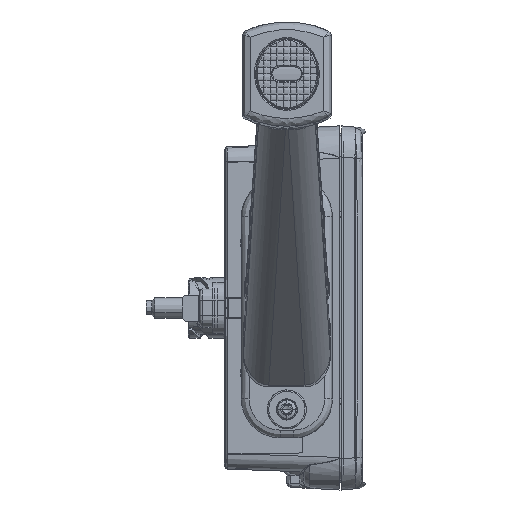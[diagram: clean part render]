
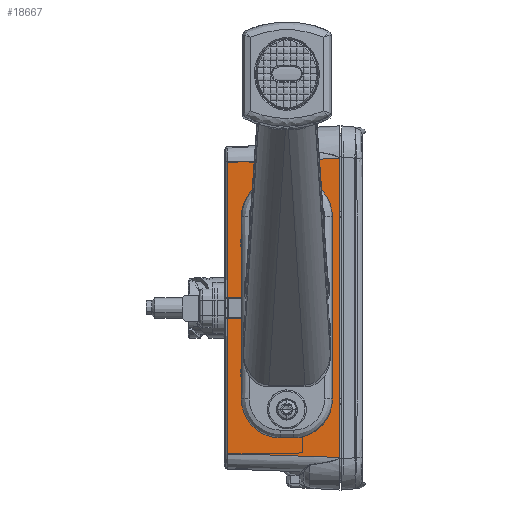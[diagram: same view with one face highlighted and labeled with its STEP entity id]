
A CAD part, front view. The second image highlights one B-rep face of the part: STEP entity #18667.
In plain terms, the highlighted planar face has unit normal (0, -1, 0).
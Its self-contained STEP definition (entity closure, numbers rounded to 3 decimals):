
#18553=AXIS2_PLACEMENT_3D('Plane Axis2P3D',#18550,#18551,#18552) ;
#18566=AXIS2_PLACEMENT_3D('Circle Axis2P3D',#18564,#18565,$) ;
#18580=AXIS2_PLACEMENT_3D('Circle Axis2P3D',#18578,#18579,$) ;
#18594=AXIS2_PLACEMENT_3D('Circle Axis2P3D',#18592,#18593,$) ;
#18608=AXIS2_PLACEMENT_3D('Circle Axis2P3D',#18606,#18607,$) ;
#12412=CARTESIAN_POINT('Vertex',(-42.,-205.,55.977)) ;
#12415=CARTESIAN_POINT('Line Origine',(-20.65,-205.,56.722)) ;
#12419=CARTESIAN_POINT('Vertex',(1.179,-205.,57.485)) ;
#13785=CARTESIAN_POINT('Vertex',(1.179,-205.,-57.485)) ;
#13788=CARTESIAN_POINT('Line Origine',(-20.65,-205.,-56.722)) ;
#13792=CARTESIAN_POINT('Vertex',(-42.,-205.,-55.977)) ;
#18550=CARTESIAN_POINT('Axis2P3D Location',(0.,-205.,0.)) ;
#18555=CARTESIAN_POINT('Line Origine',(-36.5,-205.,19.487)) ;
#18559=CARTESIAN_POINT('Vertex',(-36.5,-205.,3.974)) ;
#18561=CARTESIAN_POINT('Vertex',(-36.5,-205.,35.)) ;
#18564=CARTESIAN_POINT('Axis2P3D Location',(-21.5,-205.,35.)) ;
#18568=CARTESIAN_POINT('Vertex',(-21.5,-205.,50.)) ;
#18571=CARTESIAN_POINT('Line Origine',(-19.,-205.,50.)) ;
#18575=CARTESIAN_POINT('Vertex',(-16.5,-205.,50.)) ;
#18578=CARTESIAN_POINT('Axis2P3D Location',(-16.5,-205.,35.)) ;
#18582=CARTESIAN_POINT('Vertex',(-1.5,-205.,35.)) ;
#18585=CARTESIAN_POINT('Line Origine',(-1.5,-205.,0.)) ;
#18589=CARTESIAN_POINT('Vertex',(-1.5,-205.,-35.)) ;
#18592=CARTESIAN_POINT('Axis2P3D Location',(-16.5,-205.,-35.)) ;
#18596=CARTESIAN_POINT('Vertex',(-16.5,-205.,-50.)) ;
#18599=CARTESIAN_POINT('Line Origine',(-19.,-205.,-50.)) ;
#18603=CARTESIAN_POINT('Vertex',(-21.5,-205.,-50.)) ;
#18606=CARTESIAN_POINT('Axis2P3D Location',(-21.5,-205.,-35.)) ;
#18610=CARTESIAN_POINT('Vertex',(-36.5,-205.,-35.)) ;
#18613=CARTESIAN_POINT('Line Origine',(-36.5,-205.,-19.487)) ;
#18617=CARTESIAN_POINT('Vertex',(-36.5,-205.,-3.974)) ;
#18620=CARTESIAN_POINT('Line Origine',(-39.25,-205.,-4.07)) ;
#18624=CARTESIAN_POINT('Vertex',(-42.,-205.,-4.166)) ;
#18627=CARTESIAN_POINT('Line Origine',(-42.,-205.,-30.071)) ;
#18632=CARTESIAN_POINT('Line Origine',(1.179,-205.,0.)) ;
#18637=CARTESIAN_POINT('Line Origine',(-42.,-205.,30.071)) ;
#18641=CARTESIAN_POINT('Vertex',(-42.,-205.,4.166)) ;
#18644=CARTESIAN_POINT('Line Origine',(-39.25,-205.,4.07)) ;
#12416=DIRECTION('Vector Direction',(-0.999,0.,-0.035)) ;
#13789=DIRECTION('Vector Direction',(-0.999,0.,0.035)) ;
#18551=DIRECTION('Axis2P3D Direction',(0.,1.,0.)) ;
#18552=DIRECTION('Axis2P3D XDirection',(0.,0.,1.)) ;
#18556=DIRECTION('Vector Direction',(0.,0.,1.)) ;
#18565=DIRECTION('Axis2P3D Direction',(0.,1.,0.)) ;
#18572=DIRECTION('Vector Direction',(-1.,0.,0.)) ;
#18579=DIRECTION('Axis2P3D Direction',(0.,1.,0.)) ;
#18586=DIRECTION('Vector Direction',(0.,0.,-1.)) ;
#18593=DIRECTION('Axis2P3D Direction',(0.,1.,0.)) ;
#18600=DIRECTION('Vector Direction',(1.,0.,0.)) ;
#18607=DIRECTION('Axis2P3D Direction',(0.,1.,0.)) ;
#18614=DIRECTION('Vector Direction',(0.,0.,1.)) ;
#18621=DIRECTION('Vector Direction',(-0.999,0.,-0.035)) ;
#18628=DIRECTION('Vector Direction',(0.,0.,-1.)) ;
#18633=DIRECTION('Vector Direction',(0.,0.,1.)) ;
#18638=DIRECTION('Vector Direction',(0.,0.,-1.)) ;
#18645=DIRECTION('Vector Direction',(-0.999,0.,0.035)) ;
#12417=VECTOR('Line Direction',#12416,1.) ;
#13790=VECTOR('Line Direction',#13789,1.) ;
#18557=VECTOR('Line Direction',#18556,1.) ;
#18573=VECTOR('Line Direction',#18572,1.) ;
#18587=VECTOR('Line Direction',#18586,1.) ;
#18601=VECTOR('Line Direction',#18600,1.) ;
#18615=VECTOR('Line Direction',#18614,1.) ;
#18622=VECTOR('Line Direction',#18621,1.) ;
#18629=VECTOR('Line Direction',#18628,1.) ;
#18634=VECTOR('Line Direction',#18633,1.) ;
#18639=VECTOR('Line Direction',#18638,1.) ;
#18646=VECTOR('Line Direction',#18645,1.) ;
#18650=ORIENTED_EDGE('',*,*,#18563,.T.) ;
#18651=ORIENTED_EDGE('',*,*,#18570,.F.) ;
#18652=ORIENTED_EDGE('',*,*,#18577,.T.) ;
#18653=ORIENTED_EDGE('',*,*,#18584,.F.) ;
#18654=ORIENTED_EDGE('',*,*,#18591,.T.) ;
#18655=ORIENTED_EDGE('',*,*,#18598,.F.) ;
#18656=ORIENTED_EDGE('',*,*,#18605,.T.) ;
#18657=ORIENTED_EDGE('',*,*,#18612,.F.) ;
#18658=ORIENTED_EDGE('',*,*,#18619,.T.) ;
#18659=ORIENTED_EDGE('',*,*,#18626,.F.) ;
#18660=ORIENTED_EDGE('',*,*,#18631,.T.) ;
#18661=ORIENTED_EDGE('',*,*,#13794,.T.) ;
#18662=ORIENTED_EDGE('',*,*,#18636,.F.) ;
#18663=ORIENTED_EDGE('',*,*,#12421,.F.) ;
#18664=ORIENTED_EDGE('',*,*,#18643,.T.) ;
#18665=ORIENTED_EDGE('',*,*,#18648,.F.) ;
#18667=ADVANCED_FACE('PartBody',(#18666),#18554,.F.) ;
#18567=CIRCLE('generated circle',#18566,15.) ;
#18581=CIRCLE('generated circle',#18580,15.) ;
#18595=CIRCLE('generated circle',#18594,15.) ;
#18609=CIRCLE('generated circle',#18608,15.) ;
#12421=EDGE_CURVE('',#12413,#12420,#12418,.F.) ;
#13794=EDGE_CURVE('',#13793,#13786,#13791,.F.) ;
#18563=EDGE_CURVE('',#18560,#18562,#18558,.T.) ;
#18570=EDGE_CURVE('',#18569,#18562,#18567,.F.) ;
#18577=EDGE_CURVE('',#18569,#18576,#18574,.F.) ;
#18584=EDGE_CURVE('',#18583,#18576,#18581,.F.) ;
#18591=EDGE_CURVE('',#18583,#18590,#18588,.T.) ;
#18598=EDGE_CURVE('',#18597,#18590,#18595,.F.) ;
#18605=EDGE_CURVE('',#18597,#18604,#18602,.F.) ;
#18612=EDGE_CURVE('',#18611,#18604,#18609,.F.) ;
#18619=EDGE_CURVE('',#18611,#18618,#18616,.T.) ;
#18626=EDGE_CURVE('',#18625,#18618,#18623,.F.) ;
#18631=EDGE_CURVE('',#18625,#13793,#18630,.T.) ;
#18636=EDGE_CURVE('',#12420,#13786,#18635,.F.) ;
#18643=EDGE_CURVE('',#12413,#18642,#18640,.T.) ;
#18648=EDGE_CURVE('',#18560,#18642,#18647,.T.) ;
#18649=EDGE_LOOP('',(#18650,#18651,#18652,#18653,#18654,#18655,#18656,#18657,#18658,#18659,#18660,#18661,#18662,#18663,#18664,#18665)) ;
#18666=FACE_OUTER_BOUND('',#18649,.T.) ;
#12418=LINE('Line',#12415,#12417) ;
#13791=LINE('Line',#13788,#13790) ;
#18558=LINE('Line',#18555,#18557) ;
#18574=LINE('Line',#18571,#18573) ;
#18588=LINE('Line',#18585,#18587) ;
#18602=LINE('Line',#18599,#18601) ;
#18616=LINE('Line',#18613,#18615) ;
#18623=LINE('Line',#18620,#18622) ;
#18630=LINE('Line',#18627,#18629) ;
#18635=LINE('Line',#18632,#18634) ;
#18640=LINE('Line',#18637,#18639) ;
#18647=LINE('Line',#18644,#18646) ;
#18554=PLANE('',#18553) ;
#12413=VERTEX_POINT('',#12412) ;
#12420=VERTEX_POINT('',#12419) ;
#13786=VERTEX_POINT('',#13785) ;
#13793=VERTEX_POINT('',#13792) ;
#18560=VERTEX_POINT('',#18559) ;
#18562=VERTEX_POINT('',#18561) ;
#18569=VERTEX_POINT('',#18568) ;
#18576=VERTEX_POINT('',#18575) ;
#18583=VERTEX_POINT('',#18582) ;
#18590=VERTEX_POINT('',#18589) ;
#18597=VERTEX_POINT('',#18596) ;
#18604=VERTEX_POINT('',#18603) ;
#18611=VERTEX_POINT('',#18610) ;
#18618=VERTEX_POINT('',#18617) ;
#18625=VERTEX_POINT('',#18624) ;
#18642=VERTEX_POINT('',#18641) ;
